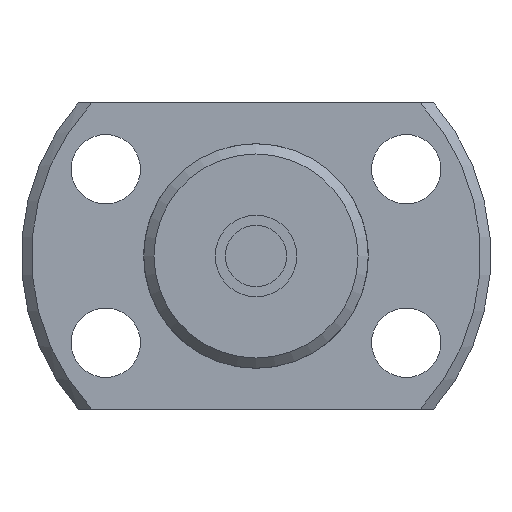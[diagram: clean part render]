
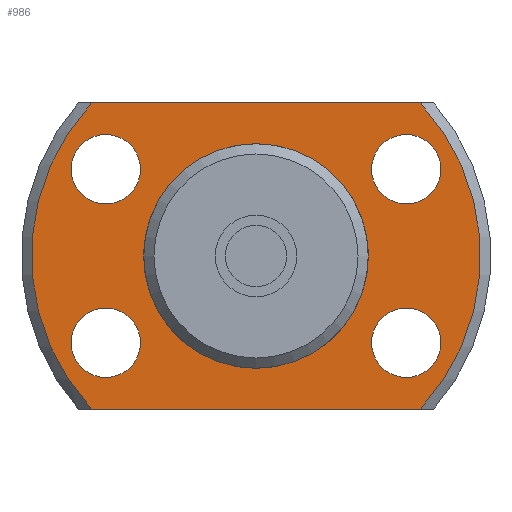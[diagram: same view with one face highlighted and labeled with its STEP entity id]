
A CAD part, left-side view. The second image highlights one B-rep face of the part: STEP entity #986.
In plain terms, the highlighted planar face has unit normal (-1, 0, 0).
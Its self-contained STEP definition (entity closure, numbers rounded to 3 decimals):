
#89=LINE('',#1713,#131);
#90=LINE('',#1717,#132);
#131=VECTOR('',#1372,1000.);
#132=VECTOR('',#1375,1000.);
#282=ORIENTED_EDGE('',*,*,#495,.T.);
#283=ORIENTED_EDGE('',*,*,#496,.T.);
#284=ORIENTED_EDGE('',*,*,#497,.T.);
#285=ORIENTED_EDGE('',*,*,#498,.T.);
#286=ORIENTED_EDGE('',*,*,#484,.F.);
#287=ORIENTED_EDGE('',*,*,#499,.F.);
#288=ORIENTED_EDGE('',*,*,#500,.F.);
#289=ORIENTED_EDGE('',*,*,#501,.F.);
#290=ORIENTED_EDGE('',*,*,#478,.T.);
#478=EDGE_CURVE('',#596,#596,#672,.T.);
#484=EDGE_CURVE('',#601,#602,#675,.T.);
#495=EDGE_CURVE('',#611,#611,#681,.T.);
#496=EDGE_CURVE('',#612,#612,#682,.T.);
#497=EDGE_CURVE('',#613,#613,#683,.T.);
#498=EDGE_CURVE('',#614,#614,#684,.T.);
#499=EDGE_CURVE('',#615,#601,#89,.T.);
#500=EDGE_CURVE('',#616,#615,#685,.T.);
#501=EDGE_CURVE('',#602,#616,#90,.T.);
#596=VERTEX_POINT('',#1656);
#601=VERTEX_POINT('',#1670);
#602=VERTEX_POINT('',#1672);
#611=VERTEX_POINT('',#1706);
#612=VERTEX_POINT('',#1708);
#613=VERTEX_POINT('',#1710);
#614=VERTEX_POINT('',#1712);
#615=VERTEX_POINT('',#1714);
#616=VERTEX_POINT('',#1716);
#672=CIRCLE('',#1109,5.3);
#675=CIRCLE('',#1113,11.);
#681=CIRCLE('',#1124,1.7);
#682=CIRCLE('',#1125,1.7);
#683=CIRCLE('',#1126,1.7);
#684=CIRCLE('',#1127,1.7);
#685=CIRCLE('',#1128,11.);
#757=EDGE_LOOP('',(#282));
#758=EDGE_LOOP('',(#283));
#759=EDGE_LOOP('',(#284));
#760=EDGE_LOOP('',(#285));
#761=EDGE_LOOP('',(#286,#287,#288,#289));
#762=EDGE_LOOP('',(#290));
#865=FACE_BOUND('',#757,.T.);
#866=FACE_BOUND('',#758,.T.);
#867=FACE_BOUND('',#759,.T.);
#868=FACE_BOUND('',#760,.T.);
#869=FACE_BOUND('',#761,.T.);
#870=FACE_BOUND('',#762,.T.);
#933=PLANE('',#1123);
#986=ADVANCED_FACE('',(#865,#866,#867,#868,#869,#870),#933,.F.);
#1109=AXIS2_PLACEMENT_3D('',#1655,#1330,#1331);
#1113=AXIS2_PLACEMENT_3D('',#1671,#1340,#1341);
#1123=AXIS2_PLACEMENT_3D('',#1704,#1362,#1363);
#1124=AXIS2_PLACEMENT_3D('',#1705,#1364,#1365);
#1125=AXIS2_PLACEMENT_3D('',#1707,#1366,#1367);
#1126=AXIS2_PLACEMENT_3D('',#1709,#1368,#1369);
#1127=AXIS2_PLACEMENT_3D('',#1711,#1370,#1371);
#1128=AXIS2_PLACEMENT_3D('',#1715,#1373,#1374);
#1330=DIRECTION('',(1.,0.,0.));
#1331=DIRECTION('',(0.,0.,-1.));
#1340=DIRECTION('',(1.,0.,0.));
#1341=DIRECTION('',(0.,0.,-1.));
#1362=DIRECTION('',(1.,0.,0.));
#1363=DIRECTION('',(0.,0.,-1.));
#1364=DIRECTION('',(1.,0.,0.));
#1365=DIRECTION('',(0.,0.,-1.));
#1366=DIRECTION('',(1.,0.,0.));
#1367=DIRECTION('',(0.,0.,-1.));
#1368=DIRECTION('',(1.,0.,0.));
#1369=DIRECTION('',(0.,0.,-1.));
#1370=DIRECTION('',(1.,0.,0.));
#1371=DIRECTION('',(0.,0.,-1.));
#1372=DIRECTION('',(0.,1.,0.));
#1373=DIRECTION('',(1.,0.,0.));
#1374=DIRECTION('',(0.,0.,-1.));
#1375=DIRECTION('',(0.,-1.,0.));
#1655=CARTESIAN_POINT('',(15.,0.,0.));
#1656=CARTESIAN_POINT('',(15.,0.,-5.3));
#1670=CARTESIAN_POINT('',(15.,8.047,-7.5));
#1671=CARTESIAN_POINT('',(15.,0.,0.));
#1672=CARTESIAN_POINT('',(15.,8.047,7.5));
#1704=CARTESIAN_POINT('',(15.,5.3,0.));
#1705=CARTESIAN_POINT('',(15.,-7.361,-4.25));
#1706=CARTESIAN_POINT('',(15.,-7.361,-5.95));
#1707=CARTESIAN_POINT('',(15.,-7.361,4.25));
#1708=CARTESIAN_POINT('',(15.,-7.361,2.55));
#1709=CARTESIAN_POINT('',(15.,7.361,-4.25));
#1710=CARTESIAN_POINT('',(15.,7.361,-5.95));
#1711=CARTESIAN_POINT('',(15.,7.361,4.25));
#1712=CARTESIAN_POINT('',(15.,7.361,2.55));
#1713=CARTESIAN_POINT('',(15.,-16.5,-7.5));
#1714=CARTESIAN_POINT('',(15.,-8.047,-7.5));
#1715=CARTESIAN_POINT('',(15.,0.,0.));
#1716=CARTESIAN_POINT('',(15.,-8.047,7.5));
#1717=CARTESIAN_POINT('',(15.,16.5,7.5));
